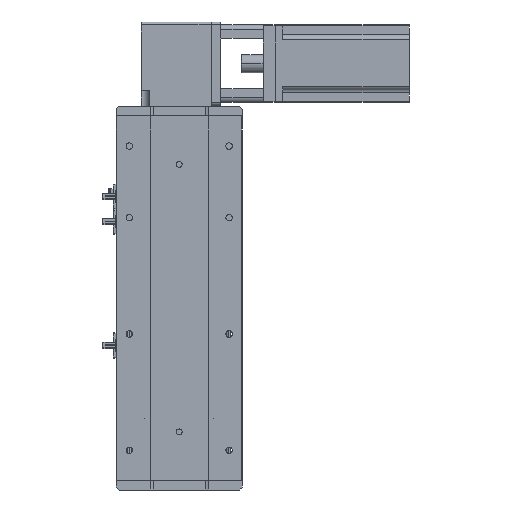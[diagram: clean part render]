
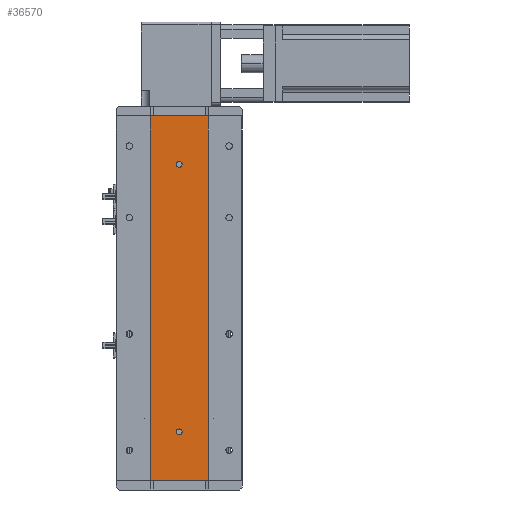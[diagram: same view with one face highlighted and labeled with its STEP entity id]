
A CAD part, left-side view. The second image highlights one B-rep face of the part: STEP entity #36570.
In plain terms, the highlighted planar face has unit normal (-1, 0, 0).
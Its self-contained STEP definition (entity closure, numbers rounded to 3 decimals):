
#207 = ORIENTED_EDGE ( 'NONE', *, *, #3417, .F. ) ;
#775 = CARTESIAN_POINT ( 'NONE',  ( -24.994, 29.785, 376. ) ) ;
#1997 = VECTOR ( 'NONE', #21467, 1000. ) ;
#2830 = LINE ( 'NONE', #26571, #36025 ) ;
#2996 = LINE ( 'NONE', #15723, #27307 ) ;
#3417 = EDGE_CURVE ( 'NONE', #32953, #24131, #29394, .T. ) ;
#3575 = DIRECTION ( 'NONE',  ( 0., 0., -1. ) ) ;
#4005 = DIRECTION ( 'NONE',  ( 1., 0., 0. ) ) ;
#4081 = EDGE_CURVE ( 'NONE', #24131, #32953, #5771, .T. ) ;
#4607 = VECTOR ( 'NONE', #10535, 1000. ) ;
#4831 = CARTESIAN_POINT ( 'NONE',  ( -24.994, 29.785, 0. ) ) ;
#4935 = CARTESIAN_POINT ( 'NONE',  ( -24.994, 0., 53. ) ) ;
#4960 = CARTESIAN_POINT ( 'NONE',  ( -24.994, 0., 50. ) ) ;
#5260 = AXIS2_PLACEMENT_3D ( 'NONE', #4960, #28123, #8305 ) ;
#5632 = VERTEX_POINT ( 'NONE', #41552 ) ;
#5771 = CIRCLE ( 'NONE', #5260, 3. ) ;
#5895 = ORIENTED_EDGE ( 'NONE', *, *, #22663, .F. ) ;
#6519 = ORIENTED_EDGE ( 'NONE', *, *, #15225, .F. ) ;
#6549 = CARTESIAN_POINT ( 'NONE',  ( -24.994, 0., 326. ) ) ;
#8305 = DIRECTION ( 'NONE',  ( 0., 0., 1. ) ) ;
#9060 = DIRECTION ( 'NONE',  ( 0., 0., -1. ) ) ;
#9381 = CARTESIAN_POINT ( 'NONE',  ( -24.994, 0., 329. ) ) ;
#9826 = FACE_BOUND ( 'NONE', #37109, .T. ) ;
#9896 = DIRECTION ( 'NONE',  ( 0., 0., 1. ) ) ;
#10276 = VERTEX_POINT ( 'NONE', #21331 ) ;
#10535 = DIRECTION ( 'NONE',  ( 0., -1., 0. ) ) ;
#11090 = DIRECTION ( 'NONE',  ( -1., 0., 0. ) ) ;
#11882 = ORIENTED_EDGE ( 'NONE', *, *, #4081, .F. ) ;
#13459 = LINE ( 'NONE', #23709, #4607 ) ;
#13582 = ORIENTED_EDGE ( 'NONE', *, *, #26667, .T. ) ;
#13700 = EDGE_CURVE ( 'NONE', #5632, #33894, #29205, .T. ) ;
#15225 = EDGE_CURVE ( 'NONE', #33894, #5632, #28492, .T. ) ;
#15723 = CARTESIAN_POINT ( 'NONE',  ( -24.994, 29.785, 376. ) ) ;
#15905 = CARTESIAN_POINT ( 'NONE',  ( -24.994, 0., 326. ) ) ;
#19192 = DIRECTION ( 'NONE',  ( 0., 0., 1. ) ) ;
#21331 = CARTESIAN_POINT ( 'NONE',  ( -24.994, -29.785, 0. ) ) ;
#21467 = DIRECTION ( 'NONE',  ( 0., -1., 0. ) ) ;
#22663 = EDGE_CURVE ( 'NONE', #25560, #28898, #13459, .T. ) ;
#22689 = VERTEX_POINT ( 'NONE', #40438 ) ;
#22749 = FACE_BOUND ( 'NONE', #25492, .T. ) ;
#23709 = CARTESIAN_POINT ( 'NONE',  ( -24.994, 29.785, 376. ) ) ;
#23848 = CARTESIAN_POINT ( 'NONE',  ( -24.994, 29.785, 376. ) ) ;
#24131 = VERTEX_POINT ( 'NONE', #4935 ) ;
#24337 = EDGE_LOOP ( 'NONE', ( #13582, #27010, #5895, #37211 ) ) ;
#24880 = EDGE_CURVE ( 'NONE', #28898, #10276, #2830, .T. ) ;
#25492 = EDGE_LOOP ( 'NONE', ( #6519, #32650 ) ) ;
#25560 = VERTEX_POINT ( 'NONE', #775 ) ;
#26571 = CARTESIAN_POINT ( 'NONE',  ( -24.994, -29.785, 376. ) ) ;
#26667 = EDGE_CURVE ( 'NONE', #22689, #10276, #30519, .T. ) ;
#27004 = PLANE ( 'NONE',  #38843 ) ;
#27010 = ORIENTED_EDGE ( 'NONE', *, *, #24880, .F. ) ;
#27127 = DIRECTION ( 'NONE',  ( 0., 0., -1. ) ) ;
#27307 = VECTOR ( 'NONE', #9060, 1000. ) ;
#28123 = DIRECTION ( 'NONE',  ( -1., 0., 0. ) ) ;
#28492 = CIRCLE ( 'NONE', #30023, 3. ) ;
#28898 = VERTEX_POINT ( 'NONE', #37448 ) ;
#29205 = CIRCLE ( 'NONE', #41228, 3. ) ;
#29394 = CIRCLE ( 'NONE', #29974, 3. ) ;
#29738 = DIRECTION ( 'NONE',  ( -1., 0., 0. ) ) ;
#29974 = AXIS2_PLACEMENT_3D ( 'NONE', #30949, #11090, #34299 ) ;
#30023 = AXIS2_PLACEMENT_3D ( 'NONE', #15905, #39119, #19192 ) ;
#30519 = LINE ( 'NONE', #4831, #1997 ) ;
#30949 = CARTESIAN_POINT ( 'NONE',  ( -24.994, 0., 50. ) ) ;
#32154 = CARTESIAN_POINT ( 'NONE',  ( -24.994, 0., 47. ) ) ;
#32650 = ORIENTED_EDGE ( 'NONE', *, *, #13700, .F. ) ;
#32953 = VERTEX_POINT ( 'NONE', #32154 ) ;
#32989 = EDGE_CURVE ( 'NONE', #25560, #22689, #2996, .T. ) ;
#33894 = VERTEX_POINT ( 'NONE', #9381 ) ;
#34299 = DIRECTION ( 'NONE',  ( 0., 0., 1. ) ) ;
#36025 = VECTOR ( 'NONE', #3575, 1000. ) ;
#36293 = FACE_OUTER_BOUND ( 'NONE', #24337, .T. ) ;
#36570 = ADVANCED_FACE ( 'NONE', ( #22749, #9826, #36293 ), #27004, .F. ) ;
#37109 = EDGE_LOOP ( 'NONE', ( #11882, #207 ) ) ;
#37211 = ORIENTED_EDGE ( 'NONE', *, *, #32989, .T. ) ;
#37448 = CARTESIAN_POINT ( 'NONE',  ( -24.994, -29.785, 376. ) ) ;
#38843 = AXIS2_PLACEMENT_3D ( 'NONE', #23848, #4005, #27127 ) ;
#39119 = DIRECTION ( 'NONE',  ( -1., 0., 0. ) ) ;
#40438 = CARTESIAN_POINT ( 'NONE',  ( -24.994, 29.785, 0. ) ) ;
#41228 = AXIS2_PLACEMENT_3D ( 'NONE', #6549, #29738, #9896 ) ;
#41552 = CARTESIAN_POINT ( 'NONE',  ( -24.994, 0., 323. ) ) ;
